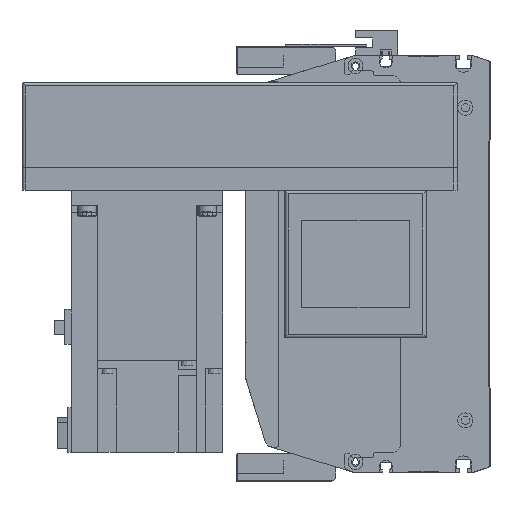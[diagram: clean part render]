
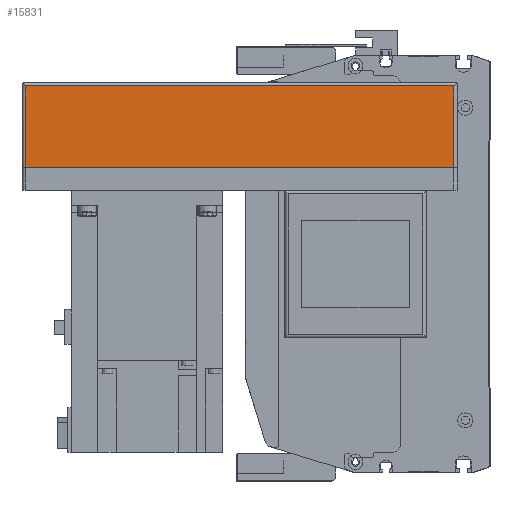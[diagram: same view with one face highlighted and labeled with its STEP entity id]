
A CAD part, left-side view. The second image highlights one B-rep face of the part: STEP entity #15831.
In plain terms, the highlighted planar face has unit normal (-1, 0, 0) as drawn and (0, 1, 0) by its records, which use the part's own axes.
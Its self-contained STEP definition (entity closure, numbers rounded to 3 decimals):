
#2676=ORIENTED_EDGE('',*,*,#6430,.F.);
#2677=ORIENTED_EDGE('',*,*,#6370,.T.);
#2678=ORIENTED_EDGE('',*,*,#6431,.F.);
#2679=ORIENTED_EDGE('',*,*,#6365,.F.);
#6365=EDGE_CURVE('',#8388,#8389,#10026,.T.);
#6370=EDGE_CURVE('',#8394,#8393,#10028,.T.);
#6430=EDGE_CURVE('',#8394,#8388,#10071,.T.);
#6431=EDGE_CURVE('',#8389,#8393,#10072,.T.);
#8388=VERTEX_POINT('',#24684);
#8389=VERTEX_POINT('',#24686);
#8393=VERTEX_POINT('',#24695);
#8394=VERTEX_POINT('',#24697);
#10026=LINE('',#24685,#11389);
#10028=LINE('',#24696,#11391);
#10071=LINE('',#24819,#11434);
#10072=LINE('',#24820,#11435);
#11389=VECTOR('',#19683,1000.);
#11391=VECTOR('',#19693,1000.);
#11434=VECTOR('',#19814,1000.);
#11435=VECTOR('',#19815,1000.);
#12606=EDGE_LOOP('',(#2676,#2677,#2678,#2679));
#13969=FACE_BOUND('',#12606,.T.);
#15170=PLANE('',#17004);
#15831=ADVANCED_FACE('',(#13969),#15170,.T.);
#17004=AXIS2_PLACEMENT_3D('',#24818,#19812,#19813);
#19683=DIRECTION('',(0.,0.,1.));
#19693=DIRECTION('',(0.,0.,1.));
#19812=DIRECTION('',(0.,1.,0.));
#19813=DIRECTION('',(0.,0.,1.));
#19814=DIRECTION('',(1.,0.,0.));
#19815=DIRECTION('',(-1.,0.,0.));
#24684=CARTESIAN_POINT('',(-2.,54.,-55.));
#24685=CARTESIAN_POINT('',(-2.,54.,-57.));
#24686=CARTESIAN_POINT('',(-2.,54.,-12.));
#24695=CARTESIAN_POINT('',(-228.,54.,-12.));
#24696=CARTESIAN_POINT('',(-228.,54.,-57.));
#24697=CARTESIAN_POINT('',(-228.,54.,-55.));
#24818=CARTESIAN_POINT('',(-2.,54.,-57.));
#24819=CARTESIAN_POINT('',(-230.,54.,-55.));
#24820=CARTESIAN_POINT('',(-2.,54.,-12.));
